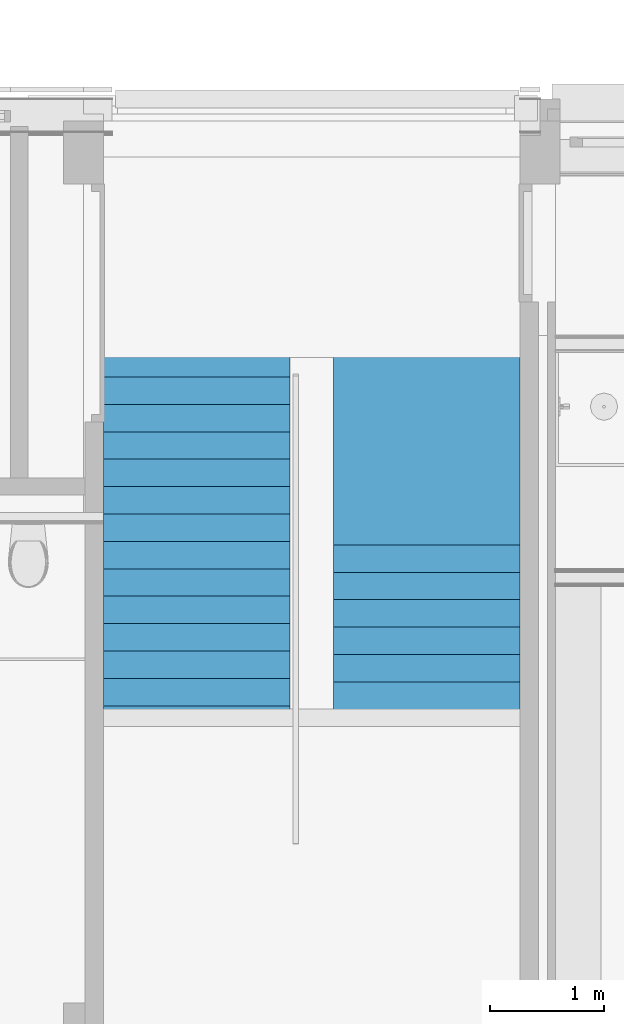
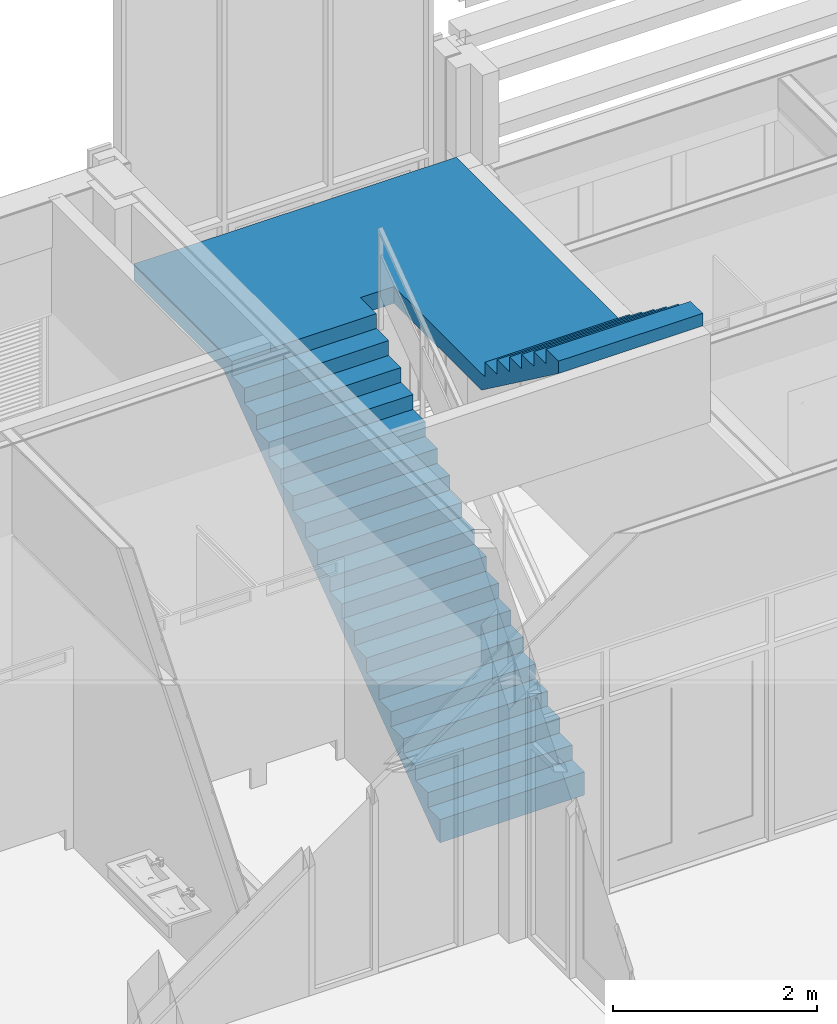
# One storey, part 23 of 109: 1 stair.
"""IFC2X3 building model written with IfcOpenShell, lengths in millimetres."""

from ifc_helpers import new_model, entity, si_unit, converted_unit, derived_unit, money_unit, direction, frame, origin_with_axes, place, context, subcontext, project, spatial, faceted_brep, material, material_list, element, save


model = new_model("IFC2X3")

# Units and contexts
model_context = context("Model", 3, precision=0.01, world=origin_with_axes(), true_north=direction((0.0, 1.0)))
body_context = subcontext(model_context, "Body", "Model", "MODEL_VIEW")
ifc_project = project(units=[si_unit("LENGTHUNIT", "METRE", prefix="MILLI"), si_unit("AREAUNIT", "SQUARE_METRE"), si_unit("VOLUMEUNIT", "CUBIC_METRE"), converted_unit("PLANEANGLEUNIT", "DEGREE", entity("IfcPlaneAngleMeasure", 0.0174532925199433), si_unit("PLANEANGLEUNIT", "RADIAN"), dimensions=[0, 0, 0, 0, 0, 0, 0]), money_unit("EUR"), converted_unit("TIMEUNIT", "Year", entity("IfcTimeMeasure", 31557600.0), si_unit("TIMEUNIT", "SECOND"), dimensions=[0, 0, 1, 0, 0, 0, 0]), si_unit("MASSUNIT", "GRAM", prefix="KILO"), si_unit("THERMODYNAMICTEMPERATUREUNIT", "DEGREE_CELSIUS"), si_unit("LUMINOUSINTENSITYUNIT", "LUMEN"), si_unit("ENERGYUNIT", "JOULE", prefix="MEGA"), derived_unit("THERMALCONDUCTANCEUNIT", [(si_unit("POWERUNIT", "WATT"), 1), (si_unit("LENGTHUNIT", "METRE"), -1), (si_unit("THERMODYNAMICTEMPERATUREUNIT", "KELVIN"), -1)]), derived_unit("SPECIFICHEATCAPACITYUNIT", [(si_unit("ENERGYUNIT", "JOULE"), 1), (si_unit("MASSUNIT", "GRAM", prefix="KILO"), -1), (si_unit("THERMODYNAMICTEMPERATUREUNIT", "KELVIN"), -1)]), derived_unit("MASSDENSITYUNIT", [(si_unit("MASSUNIT", "GRAM", prefix="KILO"), 1), (si_unit("VOLUMEUNIT", "CUBIC_METRE"), -1)])], contexts=[model_context])

# Site, building, storey
site_placement = place(None, origin_with_axes())
site = spatial("IfcSite", under=ifc_project, at=site_placement, Name="<site naam>", CompositionType="ELEMENT")
building_placement = place(site_placement, origin_with_axes())
building = spatial("IfcBuilding", under=site, at=building_placement, Name="<Naam gebouw>", CompositionType="ELEMENT")
storey_placement = place(building_placement, origin_with_axes())
storey = spatial("IfcBuildingStorey", under=building, at=storey_placement, Name="00 Begane grond", CompositionType="ELEMENT", Elevation=0.0)

# Stair
ifc_material = material(Name="beton")
ifc_material_list = material_list([ifc_material, ifc_material, ifc_material])
stair_placement = place(storey_placement, frame((49810.00000000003, 15079.85163590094, 0.0), z_axis=(0.0, 0.0, 1.0), x_axis=(1.0, 0.0, 0.0)))
element("IfcStair", 1, at=stair_placement, inside=storey, material=ifc_material_list, Name="24_Trap_", ShapeType="NOTDEFINED", context=body_context, shape_type="Brep", body=[
    faceted_brep([(-1635.000000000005, 2679.648364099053, 2987.5), (-1635.000000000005, 2679.648364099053, 3010.416666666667), (0.0, 2679.648364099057, 3010.416666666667), (0.0, 2679.648364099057, 2987.5), (-1634.999999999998, 2850.703960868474, 2987.5), (-1635.000000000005, 2679.648364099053, 2861.287103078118), (-1635.000000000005, 2599.648364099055, 2802.259325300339), (-1635.000000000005, 2519.648364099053, 2743.231547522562), (-1635.000000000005, 2439.648364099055, 2684.203769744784), (-1635.000000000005, 2359.648364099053, 2625.175991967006), (-1635.000000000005, 2279.648364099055, 2566.148214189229), (-1635.000000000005, 2199.648364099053, 2507.12043641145), (-1635.000000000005, 2119.648364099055, 2448.092658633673), (-1635.000000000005, 2039.648364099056, 2389.064880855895), (-1635.000000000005, 1959.648364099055, 2330.037103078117), (-1635.000000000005, 1879.648364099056, 2271.00932530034), (-1635.000000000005, 1799.648364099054, 2211.981547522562), (-1635.000000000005, 1719.648364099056, 2152.953769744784), (-1635.000000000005, 1639.648364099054, 2093.925991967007), (-1635.000000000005, 1559.648364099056, 2034.898214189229), (-1635.000000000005, 1479.648364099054, 1975.870436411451), (-1635.000000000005, 1399.648364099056, 1916.842658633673), (-1635.000000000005, 1319.648364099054, 1857.814880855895), (-1635.000000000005, 1239.648364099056, 1798.787103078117), (-1635.000000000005, 1159.648364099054, 1739.75932530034), (-1635.000000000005, 1079.648364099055, 1680.731547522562), (-1635.000000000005, 999.6483640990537, 1621.703769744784), (-1635.000000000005, 919.6483640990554, 1562.675991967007), (-1635.000000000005, 839.6483640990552, 1503.648214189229), (-1635.000000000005, 759.6483640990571, 1444.620436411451), (-1635.000000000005, 679.6483640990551, 1385.592658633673), (-1634.999999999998, 599.6483640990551, 1326.564880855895), (-1634.999999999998, 519.648364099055, 1267.537103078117), (-1634.999999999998, 439.6483640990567, 1208.50932530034), (-1634.999999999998, 359.6483640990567, 1149.481547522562), (-1634.999999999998, 279.6483640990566, 1090.453769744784), (-1634.999999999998, 199.6483640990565, 1031.425991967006), (-1634.999999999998, 119.6483640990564, 972.3982141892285), (-1634.999999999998, 39.64836409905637, 913.3704364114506), (-1634.999999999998, -40.35163590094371, 854.3426586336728), (-1634.999999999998, -120.3516359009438, 795.3148808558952), (-1634.999999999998, -200.3516359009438, 736.2871030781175), (-1634.999999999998, -280.3516359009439, 677.2593253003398), (-1634.999999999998, -360.351635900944, 618.2315475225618), (-1634.999999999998, -440.3516359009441, 559.203769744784), (-1634.999999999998, -520.3516359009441, 500.1759919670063), (-1634.999999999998, -600.3516359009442, 441.1482141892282), (-1634.999999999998, -680.3516359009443, 382.120436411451), (-1634.999999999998, -760.3516359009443, 323.0926586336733), (-1634.999999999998, -840.3516359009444, 264.0648808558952), (-1634.999999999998, -920.3516359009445, 205.0371030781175), (-1634.999999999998, -1000.351635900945, 146.0093253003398), (-1634.999999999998, -1080.351635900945, 86.98154752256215), (-1634.999999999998, -1160.351635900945, 27.95376974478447), (-1634.999999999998, -1240.351635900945, -31.07400803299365), (-1634.999999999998, -1320.351635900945, -90.10178581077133), (-1634.999999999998, -1333.766627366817, -100.0000000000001), (-1634.999999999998, -1400.351635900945, -100.0000000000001), (-1634.999999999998, -1400.351635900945, 177.083333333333), (-1634.999999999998, -1160.351635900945, 177.0833333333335), (-1634.999999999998, -1160.351635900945, 354.166666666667), (-1634.999999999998, -920.3516359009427, 354.166666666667), (-1634.999999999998, -920.3516359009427, 531.25), (-1634.999999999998, -680.3516359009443, 531.25), (-1634.999999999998, -680.3516359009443, 708.3333333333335), (-1634.999999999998, -440.3516359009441, 708.3333333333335), (-1634.999999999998, -440.3516359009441, 885.416666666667), (-1634.999999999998, -200.3516359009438, 885.416666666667), (-1634.999999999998, -200.3516359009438, 1062.5), (-1634.999999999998, 39.64836409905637, 1062.5), (-1634.999999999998, 39.64836409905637, 1239.583333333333), (-1634.999999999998, 279.6483640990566, 1239.583333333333), (-1634.999999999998, 279.6483640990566, 1416.666666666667), (-1634.999999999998, 519.648364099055, 1416.666666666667), (-1634.999999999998, 519.648364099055, 1593.75), (-1635.000000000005, 759.6483640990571, 1593.75), (-1635.000000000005, 759.6483640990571, 1770.833333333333), (-1635.000000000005, 999.6483640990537, 1770.833333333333), (-1635.000000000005, 999.6483640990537, 1947.916666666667), (-1635.000000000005, 1239.648364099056, 1947.916666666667), (-1635.000000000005, 1239.648364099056, 2125.0), (-1635.000000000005, 1479.648364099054, 2125.0), (-1635.000000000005, 1479.648364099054, 2302.083333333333), (-1635.000000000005, 1719.648364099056, 2302.083333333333), (-1635.000000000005, 1719.648364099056, 2479.166666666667), (-1635.000000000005, 1959.648364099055, 2479.166666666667), (-1635.000000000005, 1959.648364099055, 2656.25), (-1635.000000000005, 2199.648364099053, 2656.25), (-1635.000000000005, 2199.648364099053, 2833.333333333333), (-1635.000000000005, 2439.648364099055, 2833.333333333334), (-1635.000000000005, 2439.648364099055, 3010.416666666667), (0.0, 2439.648364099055, 3010.416666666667), (0.0, 2679.648364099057, 2861.287103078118), (0.0, 2850.703960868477, 2987.5), (0.0, 2439.648364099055, 2833.333333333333), (0.0, 2199.648364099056, 2833.333333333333), (0.0, 2199.648364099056, 2656.25), (0.0, 1959.648364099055, 2656.25), (0.0, 1959.648364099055, 2479.166666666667), (0.0, 1719.648364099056, 2479.166666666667), (0.0, 1719.648364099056, 2302.083333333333), (0.0, 1479.648364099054, 2302.083333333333), (0.0, 1479.648364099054, 2125.0), (0.0, 1239.648364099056, 2125.0), (0.0, 1239.648364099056, 1947.916666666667), (0.0, 999.6483640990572, 1947.916666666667), (0.0, 999.6483640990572, 1770.833333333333), (0.0, 759.6483640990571, 1770.833333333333), (0.0, 759.6483640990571, 1593.75), (0.0, 519.6483640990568, 1593.75), (0.0, 519.6483640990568, 1416.666666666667), (0.0, 279.6483640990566, 1416.666666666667), (0.0, 279.6483640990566, 1239.583333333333), (0.0, 39.64836409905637, 1239.583333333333), (0.0, 39.64836409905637, 1062.5), (0.0, -200.3516359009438, 1062.5), (0.0, -200.3516359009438, 885.416666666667), (0.0, -440.3516359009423, 885.416666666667), (0.0, -440.3516359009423, 708.3333333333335), (0.0, -680.3516359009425, 708.3333333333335), (0.0, -680.3516359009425, 531.25), (0.0, -920.3516359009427, 531.25), (0.0, -920.3516359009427, 354.166666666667), (0.0, -1160.351635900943, 354.166666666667), (0.0, -1160.351635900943, 177.083333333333), (0.0, -1400.351635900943, 177.083333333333), (0.0, -1400.351635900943, -100.0000000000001), (0.0, -1333.766627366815, -100.0000000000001), (0.0, -1320.351635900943, -90.10178581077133), (0.0, -1240.351635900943, -31.07400803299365), (0.0, -1160.351635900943, 27.95376974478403), (0.0, -1080.351635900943, 86.98154752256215), (0.0, -1000.351635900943, 146.0093253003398), (0.0, -920.3516359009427, 205.0371030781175), (0.0, -840.3516359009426, 264.0648808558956), (0.0, -760.3516359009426, 323.0926586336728), (0.0, -680.3516359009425, 382.1204364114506), (0.0, -600.3516359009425, 441.1482141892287), (0.0, -520.3516359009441, 500.1759919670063), (0.0, -440.3516359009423, 559.203769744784), (0.0, -360.351635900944, 618.2315475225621), (0.0, -280.3516359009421, 677.2593253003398), (0.0, -200.3516359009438, 736.2871030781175), (0.0, -120.351635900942, 795.3148808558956), (0.0, -40.35163590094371, 854.3426586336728), (0.0, 39.64836409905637, 913.3704364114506), (0.0, 119.6483640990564, 972.3982141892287), (0.0, 199.6483640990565, 1031.425991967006), (0.0, 279.6483640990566, 1090.453769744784), (0.0, 359.6483640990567, 1149.481547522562), (0.0, 439.6483640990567, 1208.50932530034), (0.0, 519.6483640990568, 1267.537103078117), (0.0, 599.6483640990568, 1326.564880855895), (0.0, 679.648364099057, 1385.592658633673), (0.0, 759.6483640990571, 1444.620436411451), (0.0, 839.6483640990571, 1503.648214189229), (0.0, 919.6483640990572, 1562.675991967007), (0.0, 999.6483640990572, 1621.703769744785), (0.0, 1079.648364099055, 1680.731547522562), (0.0, 1159.648364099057, 1739.75932530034), (0.0, 1239.648364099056, 1798.787103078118), (0.0, 1319.648364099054, 1857.814880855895), (0.0, 1399.648364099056, 1916.842658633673), (0.0, 1479.648364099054, 1975.870436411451), (0.0, 1559.648364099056, 2034.898214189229), (0.0, 1639.648364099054, 2093.925991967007), (0.0, 1719.648364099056, 2152.953769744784), (0.0, 1799.648364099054, 2211.981547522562), (0.0, 1879.648364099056, 2271.00932530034), (0.0, 1959.648364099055, 2330.037103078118), (0.0, 2039.648364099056, 2389.064880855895), (0.0, 2119.648364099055, 2448.092658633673), (0.0, 2199.648364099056, 2507.120436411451), (0.0, 2279.648364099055, 2566.148214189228), (0.0, 2359.648364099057, 2625.175991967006), (0.0, 2439.648364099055, 2684.203769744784), (0.0, 2519.648364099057, 2743.231547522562), (0.0, 2599.648364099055, 2802.25932530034)], [[[0, 1, 2, 3]], [[0, 4, 5, 6, 7, 8, 9, 10, 11, 12, 13, 14, 15, 16, 17, 18, 19, 20, 21, 22, 23, 24, 25, 26, 27, 28, 29, 30, 31, 32, 33, 34, 35, 36, 37, 38, 39, 40, 41, 42, 43, 44, 45, 46, 47, 48, 49, 50, 51, 52, 53, 54, 55, 56, 57, 58, 59, 60, 61, 62, 63, 64, 65, 66, 67, 68, 69, 70, 71, 72, 73, 74, 75, 76, 77, 78, 79, 80, 81, 82, 83, 84, 85, 86, 87, 88, 89, 90, 1]], [[90, 91, 2, 1]], [[92, 93, 3, 2, 91, 94, 95, 96, 97, 98, 99, 100, 101, 102, 103, 104, 105, 106, 107, 108, 109, 110, 111, 112, 113, 114, 115, 116, 117, 118, 119, 120, 121, 122, 123, 124, 125, 126, 127, 128, 129, 130, 131, 132, 133, 134, 135, 136, 137, 138, 139, 140, 141, 142, 143, 144, 145, 146, 147, 148, 149, 150, 151, 152, 153, 154, 155, 156, 157, 158, 159, 160, 161, 162, 163, 164, 165, 166, 167, 168, 169, 170, 171, 172, 173, 174, 175, 176, 177]], [[3, 93, 4, 0]], [[5, 4, 93, 92, 177, 6]], [[7, 6, 177, 176]], [[8, 7, 176, 175]], [[9, 8, 175, 174]], [[10, 9, 174, 173]], [[11, 10, 173, 172]], [[12, 11, 172, 171]], [[13, 12, 171, 170]], [[14, 13, 170, 169]], [[15, 14, 169, 168]], [[16, 15, 168, 167]], [[17, 16, 167, 166]], [[18, 17, 166, 165]], [[19, 18, 165, 164]], [[20, 19, 164, 163]], [[21, 20, 163, 162]], [[22, 21, 162, 161]], [[23, 22, 161, 160]], [[24, 23, 160, 159]], [[25, 24, 159, 158]], [[26, 25, 158, 157]], [[27, 26, 157, 156]], [[28, 27, 156, 155]], [[29, 28, 155, 154]], [[30, 29, 154, 153]], [[31, 30, 153, 152]], [[32, 31, 152, 151]], [[33, 32, 151, 150]], [[34, 33, 150, 149]], [[35, 34, 149, 148]], [[36, 35, 148, 147]], [[37, 36, 147, 146]], [[38, 37, 146, 145]], [[39, 38, 145, 144]], [[40, 39, 144, 143]], [[41, 40, 143, 142]], [[42, 41, 142, 141]], [[43, 42, 141, 140]], [[44, 43, 140, 139]], [[45, 44, 139, 138]], [[46, 45, 138, 137]], [[47, 46, 137, 136]], [[48, 47, 136, 135]], [[49, 48, 135, 134]], [[50, 49, 134, 133]], [[51, 50, 133, 132]], [[52, 51, 132, 131]], [[53, 52, 131, 130]], [[54, 53, 130, 129]], [[55, 54, 129, 128]], [[56, 55, 128, 127]], [[57, 56, 127, 126]], [[126, 125, 58, 57]], [[125, 124, 59, 58]], [[60, 59, 124, 123]], [[123, 122, 61, 60]], [[62, 61, 122, 121]], [[121, 120, 63, 62]], [[64, 63, 120, 119]], [[119, 118, 65, 64]], [[66, 65, 118, 117]], [[117, 116, 67, 66]], [[68, 67, 116, 115]], [[115, 114, 69, 68]], [[70, 69, 114, 113]], [[113, 112, 71, 70]], [[72, 71, 112, 111]], [[111, 110, 73, 72]], [[74, 73, 110, 109]], [[109, 108, 75, 74]], [[76, 75, 108, 107]], [[107, 106, 77, 76]], [[78, 77, 106, 105]], [[105, 104, 79, 78]], [[80, 79, 104, 103]], [[103, 102, 81, 80]], [[82, 81, 102, 101]], [[101, 100, 83, 82]], [[84, 83, 100, 99]], [[99, 98, 85, 84]], [[86, 85, 98, 97]], [[97, 96, 87, 86]], [[88, 87, 96, 95]], [[95, 94, 89, 88]], [[90, 89, 94, 91]]]),
    faceted_brep([(2015.000000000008, 1278.592766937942, 2987.5), (2015.000000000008, 4604.648364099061, 2987.5), (2015.000000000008, 4604.648364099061, 3187.5), (2015.000000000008, 1278.592766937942, 3187.5), (380.0000000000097, 1278.592766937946, 2987.5), (380.0000000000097, 2994.629993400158, 2987.5), (0.0, 2994.629993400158, 2987.5), (0.0, 2679.648364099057, 2987.5), (-1635.000000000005, 2679.648364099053, 2987.5), (-1634.999999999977, 4605.559004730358, 2987.5), (-1634.999999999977, 4605.559004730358, 3187.5), (-1635.000000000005, 2679.648364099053, 3187.5), (0.0, 2679.648364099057, 3187.5), (0.0, 2994.629993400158, 3187.5), (380.0000000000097, 2994.629993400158, 3187.5), (380.0000000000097, 1278.592766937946, 3187.5)], [[[0, 1, 2, 3]], [[4, 5, 6, 7, 8, 9, 1, 0]], [[10, 2, 1, 9]], [[3, 2, 10, 11, 12, 13, 14, 15]], [[15, 4, 0, 3]], [[15, 14, 5, 4]], [[14, 13, 6, 5]], [[13, 12, 7, 6]], [[12, 11, 8, 7]], [[11, 10, 9, 8]]]),
    faceted_brep([(380.0000000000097, 1209.648364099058, 3364.583333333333), (2015.000000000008, 1209.648364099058, 3364.583333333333), (2015.000000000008, 1209.648364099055, 3187.5), (380.0000000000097, 1209.648364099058, 3187.5), (380.0000000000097, 969.6483647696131, 3364.583333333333), (2015.000000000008, 969.6483647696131, 3364.583333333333), (2015.000000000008, 1278.592766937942, 2987.500000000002), (2015.000000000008, 1278.592766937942, 3187.5), (2015.000000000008, 969.6483647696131, 3541.666666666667), (2015.000000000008, 729.6483640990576, 3541.666666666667), (2015.000000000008, 729.6483640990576, 3718.75), (2015.000000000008, 489.6483640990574, 3718.75), (2015.000000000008, 489.6483640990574, 3895.833333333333), (2015.000000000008, 249.648364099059, 3895.833333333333), (2015.000000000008, 249.648364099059, 4072.916666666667), (2015.000000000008, 9.648364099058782, 4072.916666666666), (2015.000000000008, 9.648364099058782, 4250.0), (2015.000000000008, -230.3516359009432, 4250.0), (2015.000000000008, -230.3516359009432, 4100.870436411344), (2015.000000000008, -150.3516359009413, 4041.842658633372), (2015.000000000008, -70.35163590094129, 3982.814880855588), (2015.000000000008, 9.648364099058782, 3923.787103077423), (2015.000000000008, 89.64836409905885, 3864.759325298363), (2015.000000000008, 169.6483640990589, 3805.731547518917), (2015.000000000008, 249.648364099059, 3746.703769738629), (2015.000000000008, 329.6483640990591, 3687.675991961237), (2015.000000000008, 409.6483640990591, 3628.64821418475), (2015.000000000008, 489.6483640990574, 3569.620436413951), (2015.000000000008, 569.6483640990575, 3510.592658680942), (2015.000000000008, 649.6483640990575, 3451.564880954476), (2015.000000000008, 729.6483640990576, 3392.53710323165), (2015.000000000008, 809.6483643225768, 3333.509325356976), (2015.000000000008, 889.648364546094, 3274.481547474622), (2015.000000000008, 969.6483647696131, 3215.453769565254), (2015.000000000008, 1049.648364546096, 3156.425991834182), (2015.000000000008, 1129.648364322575, 3097.398214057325), (2015.000000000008, 1209.648364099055, 3038.370436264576), (380.0000000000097, 1278.592766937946, 3187.5), (380.0000000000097, 1278.592766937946, 2987.5), (380.0000000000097, 1209.648364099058, 3038.370436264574), (380.0000000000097, 1129.648364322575, 3097.398214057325), (380.0000000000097, 1049.648364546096, 3156.42599183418), (380.0000000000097, 969.6483647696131, 3215.453769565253), (380.0000000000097, 889.6483645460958, 3274.481547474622), (380.0000000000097, 809.6483643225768, 3333.509325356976), (380.0000000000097, 729.6483640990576, 3392.53710323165), (380.0000000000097, 649.6483640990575, 3451.564880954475), (380.0000000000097, 569.6483640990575, 3510.59265868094), (380.0000000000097, 489.6483640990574, 3569.620436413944), (380.0000000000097, 409.6483640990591, 3628.648214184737), (380.0000000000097, 329.6483640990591, 3687.675991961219), (380.0000000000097, 249.648364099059, 3746.703769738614), (380.0000000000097, 169.6483640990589, 3805.731547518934), (380.0000000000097, 89.64836409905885, 3864.759325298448), (380.0000000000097, 9.648364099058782, 3923.787103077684), (380.0000000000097, -70.35163590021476, 3982.814880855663), (380.0000000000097, -150.3516358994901, 4041.842658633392), (380.0000000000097, -230.3516358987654, 4100.870436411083), (380.0000000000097, -230.3516358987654, 4250.0), (380.0000000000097, 9.648364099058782, 4250.0), (380.0000000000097, 9.648364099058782, 4072.916666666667), (380.0000000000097, 249.648364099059, 4072.916666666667), (380.0000000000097, 249.648364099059, 3895.833333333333), (380.0000000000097, 489.6483640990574, 3895.833333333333), (380.0000000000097, 489.6483640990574, 3718.75), (380.0000000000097, 729.6483640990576, 3718.75), (380.0000000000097, 729.6483640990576, 3541.666666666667), (380.0000000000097, 969.6483647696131, 3541.666666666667)], [[[0, 1, 2, 3]], [[4, 5, 1, 0]], [[6, 7, 2, 1, 5, 8, 9, 10, 11, 12, 13, 14, 15, 16, 17, 18, 19, 20, 21, 22, 23, 24, 25, 26, 27, 28, 29, 30, 31, 32, 33, 34, 35, 36]], [[7, 37, 3, 2]], [[37, 38, 39, 40, 41, 42, 43, 44, 45, 46, 47, 48, 49, 50, 51, 52, 53, 54, 55, 56, 57, 58, 59, 60, 61, 62, 63, 64, 65, 66, 67, 4, 0, 3]], [[5, 4, 67, 8]], [[38, 37, 7, 6]], [[66, 9, 8, 67]], [[9, 66, 65, 10]], [[64, 11, 10, 65]], [[11, 64, 63, 12]], [[62, 13, 12, 63]], [[13, 62, 61, 14]], [[60, 15, 14, 61]], [[15, 60, 59, 16]], [[59, 58, 17, 16]], [[58, 57, 18, 17]], [[56, 19, 18, 57]], [[55, 20, 19, 56]], [[54, 21, 20, 55]], [[53, 22, 21, 54]], [[52, 23, 22, 53]], [[51, 24, 23, 52]], [[50, 25, 24, 51]], [[49, 26, 25, 50]], [[48, 27, 26, 49]], [[47, 28, 27, 48]], [[46, 29, 28, 47]], [[45, 30, 29, 46]], [[44, 31, 30, 45]], [[43, 32, 31, 44]], [[42, 33, 32, 43]], [[41, 34, 33, 42]], [[40, 35, 34, 41]], [[35, 40, 39, 36]], [[38, 6, 36, 39]]]),
])

save(model, "model.ifc")
